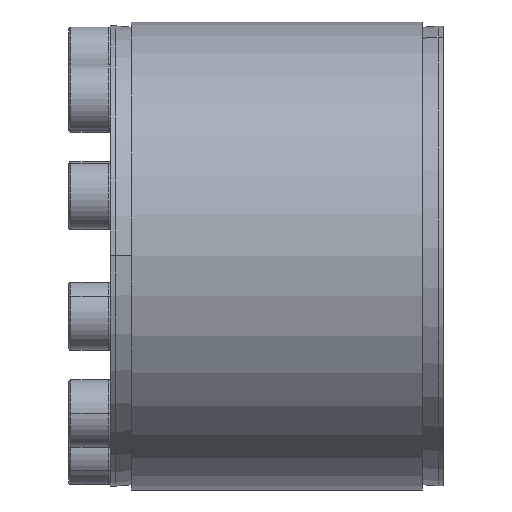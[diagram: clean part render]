
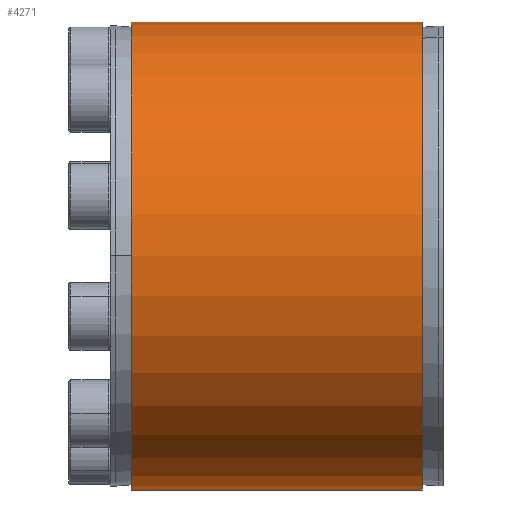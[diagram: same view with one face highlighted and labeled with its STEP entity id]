
A CAD part, top view. The second image highlights one B-rep face of the part: STEP entity #4271.
In plain terms, the highlighted cylindrical face has radius 45 mm (diameter 90 mm), a partial arc.
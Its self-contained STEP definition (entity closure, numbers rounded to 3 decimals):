
#351 = AXIS2_PLACEMENT_3D ( 'NONE', #3530, #7160, #6565 ) ;
#365 = CARTESIAN_POINT ( 'NONE',  ( -26.395, 39., 0. ) ) ;
#479 = ORIENTED_EDGE ( 'NONE', *, *, #6207, .T. ) ;
#519 = CIRCLE ( 'NONE', #7288, 45. ) ;
#541 = DIRECTION ( 'NONE',  ( 1., 0., 0. ) ) ;
#703 = VERTEX_POINT ( 'NONE', #3808 ) ;
#741 = CARTESIAN_POINT ( 'NONE',  ( 29.605, -6., 0. ) ) ;
#1227 = VERTEX_POINT ( 'NONE', #365 ) ;
#1347 = DIRECTION ( 'NONE',  ( 0., 1., 0. ) ) ;
#1458 = VECTOR ( 'NONE', #5766, 1000. ) ;
#1565 = VECTOR ( 'NONE', #4367, 1000. ) ;
#1590 = FACE_OUTER_BOUND ( 'NONE', #4809, .T. ) ;
#1944 = CARTESIAN_POINT ( 'NONE',  ( 47.131, 39., 0. ) ) ;
#2875 = VERTEX_POINT ( 'NONE', #4780 ) ;
#2993 = ORIENTED_EDGE ( 'NONE', *, *, #5785, .T. ) ;
#3039 = LINE ( 'NONE', #5164, #1458 ) ;
#3157 = LINE ( 'NONE', #1944, #1565 ) ;
#3530 = CARTESIAN_POINT ( 'NONE',  ( 47.131, -6., 0. ) ) ;
#3729 = AXIS2_PLACEMENT_3D ( 'NONE', #4145, #541, #4777 ) ;
#3808 = CARTESIAN_POINT ( 'NONE',  ( 29.605, 39., 0. ) ) ;
#3818 = CARTESIAN_POINT ( 'NONE',  ( 29.605, -51., 0. ) ) ;
#3996 = VERTEX_POINT ( 'NONE', #3818 ) ;
#4145 = CARTESIAN_POINT ( 'NONE',  ( -26.395, -6., 0. ) ) ;
#4271 = ADVANCED_FACE ( 'NONE', ( #1590 ), #6244, .T. ) ;
#4367 = DIRECTION ( 'NONE',  ( 1., 0., 0. ) ) ;
#4687 = ORIENTED_EDGE ( 'NONE', *, *, #4984, .F. ) ;
#4777 = DIRECTION ( 'NONE',  ( 0., 1., 0. ) ) ;
#4780 = CARTESIAN_POINT ( 'NONE',  ( -26.395, -51., 0. ) ) ;
#4809 = EDGE_LOOP ( 'NONE', ( #2993, #479, #6643, #4687 ) ) ;
#4970 = DIRECTION ( 'NONE',  ( 1., 0., 0. ) ) ;
#4984 = EDGE_CURVE ( 'NONE', #1227, #703, #3157, .T. ) ;
#5164 = CARTESIAN_POINT ( 'NONE',  ( 47.131, -51., 0. ) ) ;
#5380 = EDGE_CURVE ( 'NONE', #703, #3996, #519, .T. ) ;
#5766 = DIRECTION ( 'NONE',  ( 1., 0., 0. ) ) ;
#5785 = EDGE_CURVE ( 'NONE', #1227, #2875, #5910, .T. ) ;
#5910 = CIRCLE ( 'NONE', #3729, 45. ) ;
#6207 = EDGE_CURVE ( 'NONE', #2875, #3996, #3039, .T. ) ;
#6244 = CYLINDRICAL_SURFACE ( 'NONE', #351, 45. ) ;
#6565 = DIRECTION ( 'NONE',  ( 0., 1., 0. ) ) ;
#6643 = ORIENTED_EDGE ( 'NONE', *, *, #5380, .F. ) ;
#7160 = DIRECTION ( 'NONE',  ( 1., 0., 0. ) ) ;
#7288 = AXIS2_PLACEMENT_3D ( 'NONE', #741, #4970, #1347 ) ;
